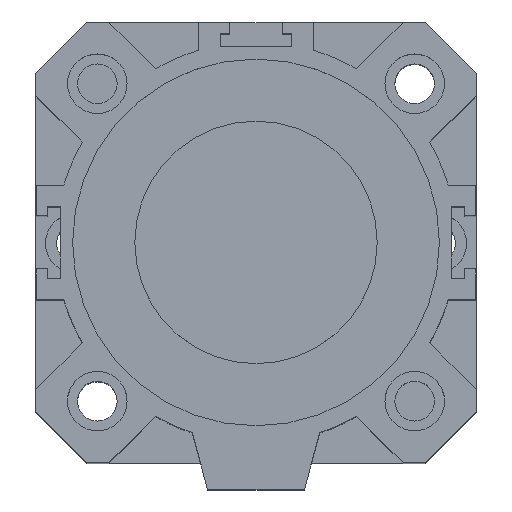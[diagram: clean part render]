
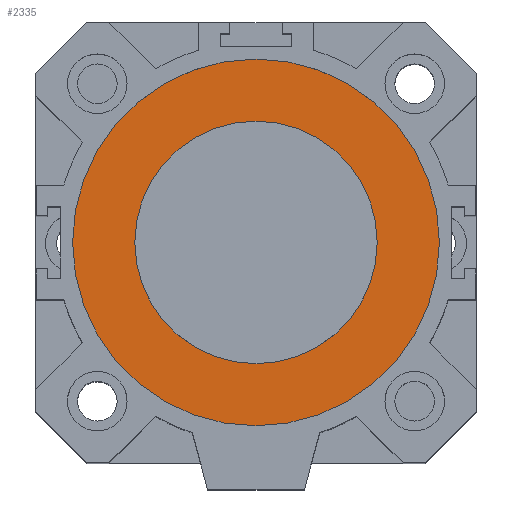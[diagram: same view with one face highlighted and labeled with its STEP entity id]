
A CAD part, top view. The second image highlights one B-rep face of the part: STEP entity #2335.
In plain terms, the highlighted planar face has unit normal (0, 0, 1).
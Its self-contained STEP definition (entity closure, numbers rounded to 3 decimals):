
#449=PLANE('',#2486);
#547=FACE_BOUND('',#766,.T.);
#548=FACE_BOUND('',#767,.T.);
#766=EDGE_LOOP('',(#1592));
#767=EDGE_LOOP('',(#1593));
#977=CIRCLE('',#2481,27.5);
#979=CIRCLE('',#2484,41.6);
#1065=VERTEX_POINT('',#3388);
#1067=VERTEX_POINT('',#3393);
#1287=EDGE_CURVE('',#1065,#1065,#977,.T.);
#1289=EDGE_CURVE('',#1067,#1067,#979,.T.);
#1592=ORIENTED_EDGE('',*,*,#1287,.F.);
#1593=ORIENTED_EDGE('',*,*,#1289,.F.);
#2335=ADVANCED_FACE('',(#547,#548),#449,.T.);
#2481=AXIS2_PLACEMENT_3D('',#3389,#2720,#2721);
#2484=AXIS2_PLACEMENT_3D('',#3394,#2726,#2727);
#2486=AXIS2_PLACEMENT_3D('',#3397,#2730,#2731);
#2720=DIRECTION('center_axis',(0.,0.,1.));
#2721=DIRECTION('ref_axis',(-1.,0.,0.));
#2726=DIRECTION('center_axis',(0.,0.,-1.));
#2727=DIRECTION('ref_axis',(-1.,0.,0.));
#2730=DIRECTION('center_axis',(0.,0.,1.));
#2731=DIRECTION('ref_axis',(1.,0.,0.));
#3388=CARTESIAN_POINT('',(27.5,0.,44.5));
#3389=CARTESIAN_POINT('Origin',(0.,0.,44.5));
#3393=CARTESIAN_POINT('',(41.6,0.,44.5));
#3394=CARTESIAN_POINT('Origin',(0.,0.,44.5));
#3397=CARTESIAN_POINT('Origin',(0.,0.,
44.5));
